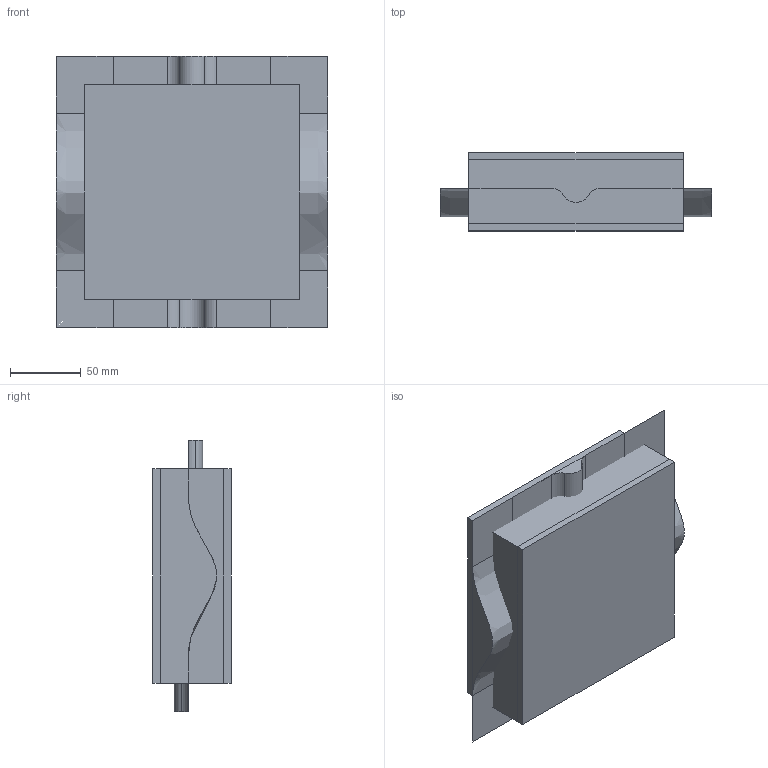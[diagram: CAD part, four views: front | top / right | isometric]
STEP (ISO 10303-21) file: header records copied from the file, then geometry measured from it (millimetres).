
FILE_DESCRIPTION(('CATIA V5 STEP Exchange'),'2;1');
FILE_NAME('C:\_Andres\UNIVERSIDAD\IQS\ASIGNATURAS\DAO\EXF\EXF-16172c\2inicio\Espinel_Roig_Ej02_v11.stp','2017-03-05T15:45:21+00:00',('none'),('none'),'CATIA Version 5-6 Release 2014 SP1 HF18','CATIA V5 STEP AP203','none');
FILE_SCHEMA(('CONFIG_CONTROL_DESIGN'));
Length unit declared in the file: millimetre
Products named in the file (1): Espinel_Roig_Ej02_v11
Bounding box: 191 x 55 x 191 mm (x, y, z)
Surface area: 233218.9 mm2
Topology: 3 solids, 10 shells, 72 faces, 205 edges, 150 vertices
Faces by surface type: bspline 32, plane 32, cylinder 6, extrusion 2
Entity records: 6410 total; most frequent: CARTESIAN_POINT 5093, ORIENTED_EDGE 288, DIRECTION 151, EDGE_CURVE 132, VERTEX_POINT 84, VECTOR 77, LINE 75, ADVANCED_FACE 72
